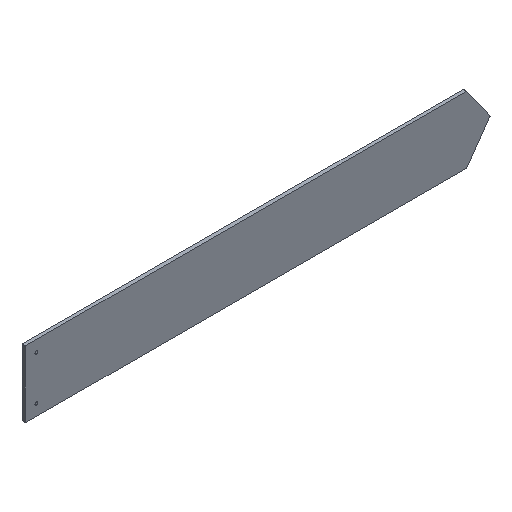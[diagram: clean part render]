
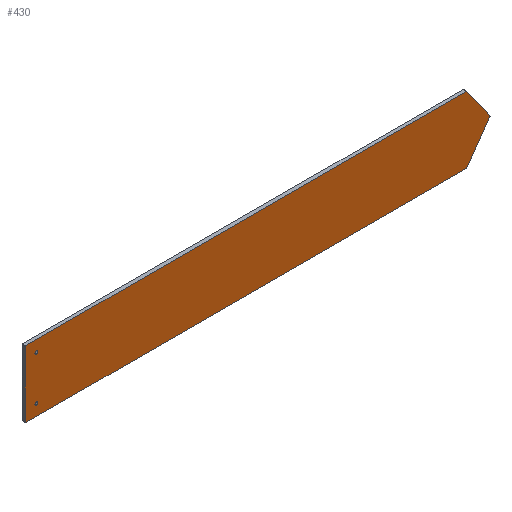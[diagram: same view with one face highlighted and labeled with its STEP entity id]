
A CAD part, isometric view. The second image highlights one B-rep face of the part: STEP entity #430.
In plain terms, the highlighted planar face has unit normal (0, -1, 0).
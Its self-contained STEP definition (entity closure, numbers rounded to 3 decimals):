
#106=CARTESIAN_POINT('',(969.598,-101.,2356.326));
#107=VERTEX_POINT('',#106);
#114=CARTESIAN_POINT('',(928.286,-101.,2297.326));
#115=VERTEX_POINT('',#114);
#116=CARTESIAN_POINT('',(928.286,-101.,2297.326));
#117=DIRECTION('',(0.574,-0.,0.819));
#118=VECTOR('',#117,72.026);
#119=LINE('',#116,#118);
#120=EDGE_CURVE('',#115,#107,#119,.T.);
#146=CARTESIAN_POINT('',(927.467,-101.,2296.9));
#147=VERTEX_POINT('',#146);
#154=CARTESIAN_POINT('',(133.988,-101.,2296.9));
#155=VERTEX_POINT('',#154);
#156=CARTESIAN_POINT('',(133.988,-101.,2296.9));
#157=DIRECTION('',(1.,-0.,0.));
#158=VECTOR('',#157,793.479);
#159=LINE('',#156,#158);
#160=EDGE_CURVE('',#155,#147,#159,.T.);
#186=CARTESIAN_POINT('',(132.988,-101.,2297.9));
#187=VERTEX_POINT('',#186);
#194=CARTESIAN_POINT('',(132.988,-101.,2415.9));
#195=VERTEX_POINT('',#194);
#196=CARTESIAN_POINT('',(132.988,-101.,2415.9));
#197=DIRECTION('',(0.,0.,-1.));
#198=VECTOR('',#197,118.);
#199=LINE('',#196,#198);
#200=EDGE_CURVE('',#195,#187,#199,.T.);
#216=CARTESIAN_POINT('',(927.467,-101.,2416.9));
#217=VERTEX_POINT('',#216);
#218=CARTESIAN_POINT('',(133.988,-101.,2416.9));
#219=VERTEX_POINT('',#218);
#220=CARTESIAN_POINT('',(927.467,-101.,2416.9));
#221=DIRECTION('',(-1.,0.,0.));
#222=VECTOR('',#221,793.479);
#223=LINE('',#220,#222);
#224=EDGE_CURVE('',#217,#219,#223,.T.);
#266=CARTESIAN_POINT('',(928.286,-101.,2416.474));
#267=VERTEX_POINT('',#266);
#274=CARTESIAN_POINT('',(969.598,-101.,2357.474));
#275=VERTEX_POINT('',#274);
#276=CARTESIAN_POINT('',(928.286,-101.,2416.474));
#277=DIRECTION('',(0.574,-0.,-0.819));
#278=VECTOR('',#277,72.026);
#279=LINE('',#276,#278);
#280=EDGE_CURVE('',#267,#275,#279,.T.);
#361=CARTESIAN_POINT('',(1527.988,-101.,-2603.1));
#362=DIRECTION('',(0.,1.,0.));
#363=DIRECTION('',(1.,-0.,0.));
#364=AXIS2_PLACEMENT_3D('',#361,#362,#363);
#365=PLANE('',#364);
#366=CARTESIAN_POINT('',(150.388,-101.,2396.9));
#367=VERTEX_POINT('',#366);
#368=CARTESIAN_POINT('',(152.988,-101.,2396.9));
#369=DIRECTION('',(0.,1.,0.));
#370=DIRECTION('',(-1.,0.,0.));
#371=AXIS2_PLACEMENT_3D('',#368,#369,#370);
#372=CIRCLE('',#371,2.6);
#373=EDGE_CURVE('',#367,#367,#372,.T.);
#374=ORIENTED_EDGE('',*,*,#373,.T.);
#375=EDGE_LOOP('',(#374));
#376=FACE_BOUND('',#375,.T.);
#377=CARTESIAN_POINT('',(150.388,-101.,2316.9));
#378=VERTEX_POINT('',#377);
#379=CARTESIAN_POINT('',(152.988,-101.,2316.9));
#380=DIRECTION('',(0.,1.,0.));
#381=DIRECTION('',(-1.,0.,0.));
#382=AXIS2_PLACEMENT_3D('',#379,#380,#381);
#383=CIRCLE('',#382,2.6);
#384=EDGE_CURVE('',#378,#378,#383,.T.);
#385=ORIENTED_EDGE('',*,*,#384,.T.);
#386=EDGE_LOOP('',(#385));
#387=FACE_BOUND('',#386,.T.);
#388=ORIENTED_EDGE('',*,*,#280,.F.);
#389=CARTESIAN_POINT('',(927.467,-101.,2415.9));
#390=DIRECTION('',(-0.,-1.,-0.));
#391=DIRECTION('',(-1.,0.,0.));
#392=AXIS2_PLACEMENT_3D('',#389,#390,#391);
#393=CIRCLE('',#392,1.);
#394=EDGE_CURVE('',#267,#217,#393,.T.);
#395=ORIENTED_EDGE('',*,*,#394,.T.);
#396=ORIENTED_EDGE('',*,*,#224,.T.);
#397=CARTESIAN_POINT('',(133.988,-101.,2415.9));
#398=DIRECTION('',(-0.,-1.,-0.));
#399=DIRECTION('',(-1.,0.,0.));
#400=AXIS2_PLACEMENT_3D('',#397,#398,#399);
#401=CIRCLE('',#400,1.);
#402=EDGE_CURVE('',#219,#195,#401,.T.);
#403=ORIENTED_EDGE('',*,*,#402,.T.);
#404=ORIENTED_EDGE('',*,*,#200,.T.);
#405=CARTESIAN_POINT('',(133.988,-101.,2297.9));
#406=DIRECTION('',(-0.,-1.,-0.));
#407=DIRECTION('',(-1.,0.,0.));
#408=AXIS2_PLACEMENT_3D('',#405,#406,#407);
#409=CIRCLE('',#408,1.);
#410=EDGE_CURVE('',#187,#155,#409,.T.);
#411=ORIENTED_EDGE('',*,*,#410,.T.);
#412=ORIENTED_EDGE('',*,*,#160,.T.);
#413=CARTESIAN_POINT('',(927.467,-101.,2297.9));
#414=DIRECTION('',(-0.,-1.,-0.));
#415=DIRECTION('',(-1.,0.,0.));
#416=AXIS2_PLACEMENT_3D('',#413,#414,#415);
#417=CIRCLE('',#416,1.);
#418=EDGE_CURVE('',#147,#115,#417,.T.);
#419=ORIENTED_EDGE('',*,*,#418,.T.);
#420=ORIENTED_EDGE('',*,*,#120,.T.);
#421=CARTESIAN_POINT('',(968.779,-101.,2356.9));
#422=DIRECTION('',(-0.,-1.,-0.));
#423=DIRECTION('',(-1.,0.,0.));
#424=AXIS2_PLACEMENT_3D('',#421,#422,#423);
#425=CIRCLE('',#424,1.);
#426=EDGE_CURVE('',#107,#275,#425,.T.);
#427=ORIENTED_EDGE('',*,*,#426,.T.);
#428=EDGE_LOOP('',(#388,#395,#396,#403,#404,#411,#412,#419,#420,#427));
#429=FACE_BOUND('',#428,.T.);
#430=ADVANCED_FACE('',(#376,#387,#429),#365,.F.);
